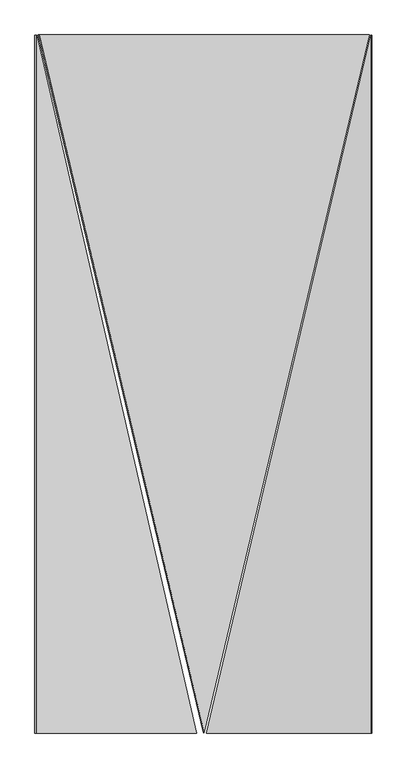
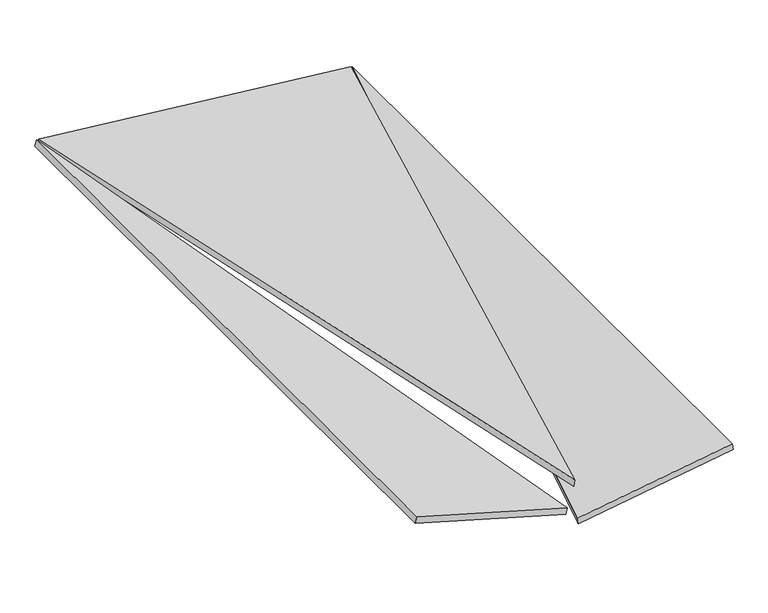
"""IFC4 building model written with IfcOpenShell, lengths in millimetres: proxy geometry, panel sufitowy 6 : panel sufitowy 6."""

import ifcopenshell
import ifcopenshell.guid

model = None  # the IFC model being written
_history = None  # IfcOwnerHistory: only IFC2X3 demands one
_inside = {}  # id of a spatial element -> (the spatial element, [elements in it])
_under = {}  # id of a project, library or spatial element -> (it, [spatial elements below it])
_declared = {}  # id of a project -> (the project, [libraries it declares])
_typed = {}  # id of a type object -> (the type object, [elements of that type])
_made_of = {}  # id of a material, layer set ... -> (it, [elements and type objects made of it])


def new_model(schema):
    """Start an empty IFC model of exactly this schema.

    Asked for "IFC4X3", IfcOpenShell would pick the latest addendum, in which some entities
    have other attributes; the version numbers below select the first issue.
    IFC2X3 requires an IfcOwnerHistory on every rooted entity: one is made here for all.
    """
    global model, _history
    if schema == "IFC4X3":
        model = ifcopenshell.file(schema_version=(4, 3, 0, 0))
    else:
        model = ifcopenshell.file(schema=schema)
    _inside.clear()
    _under.clear()
    _declared.clear()
    _typed.clear()
    _made_of.clear()
    _history = None
    if model.schema == "IFC2X3":
        org = make("IfcOrganization", Name="unknown")
        user = make(
            "IfcPersonAndOrganization",
            ThePerson=make("IfcPerson", FamilyName="unknown"),
            TheOrganization=org,
        )
        app = make(
            "IfcApplication",
            ApplicationDeveloper=org,
            Version="unknown",
            ApplicationFullName="unknown",
            ApplicationIdentifier="unknown",
        )
        _history = make(
            "IfcOwnerHistory",
            OwningUser=user,
            OwningApplication=app,
            ChangeAction="ADDED",
            CreationDate=0,
        )
    return model


def make(cls, **values):
    """One entity of the class cls with the attributes given. An attribute that is None is left unset."""
    return model.create_entity(
        cls, **{name: value for name, value in values.items() if value is not None}
    )


def rooted(cls, **values):
    """An entity with a GlobalId (a new one), such as an element, a storey or a relation."""
    return make(cls, GlobalId=ifcopenshell.guid.new(), OwnerHistory=_history, **values)


def si_unit(unit_type, name, prefix=None):
    """IfcSIUnit, for example si_unit("LENGTHUNIT", "METRE", prefix="MILLI")."""
    return make("IfcSIUnit", UnitType=unit_type, Prefix=prefix, Name=name)


def assignment(units):
    """IfcUnitAssignment: the units of a project."""
    return None if units is None else make("IfcUnitAssignment", Units=units)


def point(xyz):
    """IfcCartesianPoint."""
    return None if xyz is None else make("IfcCartesianPoint", Coordinates=xyz)


def direction(xyz):
    """IfcDirection."""
    return None if xyz is None else make("IfcDirection", DirectionRatios=xyz)


def frame(location, z_axis=None, x_axis=None):
    """IfcAxis2Placement3D, a coordinate frame: its origin and axes. An axis left out is left unset."""
    return make(
        "IfcAxis2Placement3D",
        Location=point(location),
        Axis=direction(z_axis),
        RefDirection=direction(x_axis),
    )


def origin():
    """The frame at (0, 0, 0) with its axes left unset."""
    return frame((0.0, 0.0, 0.0))


def place(relative_to, where):
    """IfcLocalPlacement: puts the frame where relative to a parent placement (None: the world)."""
    return make(
        "IfcLocalPlacement", PlacementRelTo=relative_to, RelativePlacement=where
    )


def context(
    kind, dimensions, precision=None, world=None, true_north=None, identifier=None
):
    """IfcGeometricRepresentationContext, for example the 3D "Model" context."""
    return make(
        "IfcGeometricRepresentationContext",
        ContextIdentifier=identifier,
        ContextType=kind,
        CoordinateSpaceDimension=dimensions,
        Precision=precision,
        WorldCoordinateSystem=world,
        TrueNorth=true_north,
    )


def project(units=None, contexts=None):
    """IfcProject with its units and contexts."""
    return rooted(
        "IfcProject",
        Name="project",
        RepresentationContexts=contexts,
        UnitsInContext=assignment(units),
    )


def spatial(cls, under=None, at=None, **own):
    """A site, building, storey or space (cls), placed at a placement, below another one or the project."""
    s = rooted(cls, ObjectPlacement=at, **own)
    if under is not None:
        _under.setdefault(under.id(), (under, []))[1].append(s)
    return s


def polyline(points):
    """IfcPolyline through the points."""
    return make("IfcPolyline", Points=[point(p) for p in points])


def outline(outer, holes=None, kind="AREA"):
    """IfcArbitraryClosedProfileDef: a profile drawn as a closed curve; with holes, ...WithVoids."""
    if holes is None:
        return make("IfcArbitraryClosedProfileDef", ProfileType=kind, OuterCurve=outer)
    return make(
        "IfcArbitraryProfileDefWithVoids",
        ProfileType=kind,
        OuterCurve=outer,
        InnerCurves=holes,
    )


def extrude(swept, where, along, depth):
    """IfcExtrudedAreaSolid: the profile swept, set in the frame where, extruded along a direction by depth."""
    return make(
        "IfcExtrudedAreaSolid",
        SweptArea=swept,
        Position=where,
        ExtrudedDirection=direction(along),
        Depth=depth,
    )


def shape(context_of_items, identifier, shape_type, items):
    """IfcShapeRepresentation: the items that make up one representation, for example the "Body"."""
    return make(
        "IfcShapeRepresentation",
        ContextOfItems=context_of_items,
        RepresentationIdentifier=identifier,
        RepresentationType=shape_type,
        Items=items,
    )


def source(mapping_origin, context_of_items, identifier, shape_type, items):
    """IfcRepresentationMap: a shape defined once, which mapped items show again and again."""
    return make(
        "IfcRepresentationMap",
        MappingOrigin=mapping_origin,
        MappedRepresentation=shape(context_of_items, identifier, shape_type, items),
    )


def transform(
    local_origin,
    x_axis=None,
    y_axis=None,
    z_axis=None,
    scale=None,
    scale2=None,
    scale3=None,
    uniform=True,
):
    """IfcCartesianTransformationOperator3D, or its non-uniform kind. x_axis, y_axis, z_axis: its Axis1, 2, 3."""
    if uniform:
        return make(
            "IfcCartesianTransformationOperator3D",
            Axis1=direction(x_axis),
            Axis2=direction(y_axis),
            LocalOrigin=point(local_origin),
            Scale=scale,
            Axis3=direction(z_axis),
        )
    return make(
        "IfcCartesianTransformationOperator3DnonUniform",
        Axis1=direction(x_axis),
        Axis2=direction(y_axis),
        LocalOrigin=point(local_origin),
        Scale=scale,
        Axis3=direction(z_axis),
        Scale2=scale2,
        Scale3=scale3,
    )


def mapped(mapping_source, mapping_target):
    """IfcMappedItem: shows the shape of a source again, moved by a transform."""
    return make(
        "IfcMappedItem", MappingSource=mapping_source, MappingTarget=mapping_target
    )


def made_of(thing, what):
    """Note that an element or type object is made of a material, layer set ...; save() writes the relation."""
    if what is not None:
        _made_of.setdefault(what.id(), (what, []))[1].append(thing)
    return thing


def element(
    cls,
    number,
    at=None,
    inside=None,
    cuts=None,
    type_object=None,
    material=None,
    context=None,
    identifier="Body",
    shape_type=None,
    held_by="IfcProductDefinitionShape",
    body=None,
    shapes=None,
    **own,
):
    """One element of the class cls, such as IfcWall. Its Tag is "e" and its number.

    at: its placement. inside: the storey or other place that contains it. cuts: it is an
    opening in that element (IfcRelVoidsElement). A single representation is given by context,
    identifier, shape_type and body (its items); several are given by shapes. held_by: the class
    of the entity that holds the representations. save() writes the other relations.
    """
    e = rooted(cls, Tag="e%d" % number, ObjectPlacement=at, **own)
    if body is not None:
        shapes = [shape(context, identifier, shape_type, body)]
    if shapes is not None:
        e.Representation = make(held_by, Representations=shapes)
    if inside is not None:
        _inside.setdefault(inside.id(), (inside, []))[1].append(e)
    if cuts is not None:
        rooted(
            "IfcRelVoidsElement", RelatingBuildingElement=cuts, RelatedOpeningElement=e
        )
    if type_object is not None:
        _typed.setdefault(type_object.id(), (type_object, []))[1].append(e)
    return made_of(e, material)


def aggregate(whole, parts):
    """IfcRelAggregates: a whole, such as a stair, and the parts it consists of."""
    return rooted("IfcRelAggregates", RelatingObject=whole, RelatedObjects=parts)


def save(model, path):
    """Write the relations noted so far, then the file.

    IfcRelAggregates (storeys below a building ...), IfcRelContainedInSpatialStructure (elements
    in a storey), IfcRelDefinesByType, IfcRelAssociatesMaterial and IfcRelDeclares: one each for
    every whole, place, type object, material and project.
    """
    for whole, parts in _under.values():
        aggregate(whole, parts)
    for where, things in _inside.values():
        rooted(
            "IfcRelContainedInSpatialStructure",
            RelatedElements=things,
            RelatingStructure=where,
        )
    for kind, things in _typed.values():
        rooted("IfcRelDefinesByType", RelatedObjects=things, RelatingType=kind)
    for what, things in _made_of.values():
        rooted("IfcRelAssociatesMaterial", RelatedObjects=things, RelatingMaterial=what)
    for by, libraries in _declared.values():
        rooted("IfcRelDeclares", RelatingContext=by, RelatedDefinitions=libraries)
    model.write(path)


def generic_models_98ffec8b(model_context):
    return source(origin(), model_context, "Body", "SweptSolid", [
        extrude(outline(polyline([(-900.9098917, -1e-07), (1235.4098448, 0.0), (1006.1909889, -962.7191946), (-900.9098917, -1e-07)])), frame((546.4979671, -1457.4151922, 1127.1133804), z_axis=(0.10452846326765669, 0.0, 0.9945218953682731), x_axis=(-0.23035168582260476, 0.9728062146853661, 0.02421093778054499)), (0.0, 0.0, 1.0), 20.0),
        extrude(outline(polyline([(-127.5, 0.0), (-622.5, 0.0), (-127.5, 2079.0), (-127.5, 0.0)])), frame((1381.9098918, -2335.0, 1072.4892472), z_axis=(-0.1564344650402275, 0.0, 0.9876883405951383), x_axis=(0.9876883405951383, 0.0, 0.1564344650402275)), (0.0, 0.0, 1.0), 20.0),
        extrude(outline(polyline([(-127.5000001, 0.0), (-127.5000001, -2079.0), (-622.5, 0.0), (-127.5000001, 0.0)])), frame((128.9516478, -2335.0, 1193.2613637), z_axis=(0.2756373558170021, 0.0, 0.9612616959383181), x_axis=(-0.9612616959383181, 0.0, 0.2756373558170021)), (0.0, 0.0, 1.0), 20.0),
    ])


if __name__ == "__main__":
    model = new_model("IFC4")
    model_context = context("Model", 3, world=origin())
    ifc_project = project(units=[si_unit("LENGTHUNIT", "METRE", prefix="MILLI")], contexts=[model_context])
    site = spatial("IfcSite", under=ifc_project)
    building = spatial("IfcBuilding", under=site)
    placement = place(None, origin())
    generic_models_shape = generic_models_98ffec8b(model_context)
    element("IfcBuildingElementProxy", 1, Name="panel sufitowy 6 : panel sufitowy 6", ObjectType="panel sufitowy 6 : panel sufitowy 6", at=placement, inside=building, context=model_context, shape_type="MappedRepresentation", body=[
        mapped(generic_models_shape, transform((0.0, 0.0, 0.0), x_axis=(1.0, 0.0, 0.0), y_axis=(0.0, 1.0, 0.0), z_axis=(0.0, 0.0, 1.0))),
    ])
    save(model, "model.ifc")
